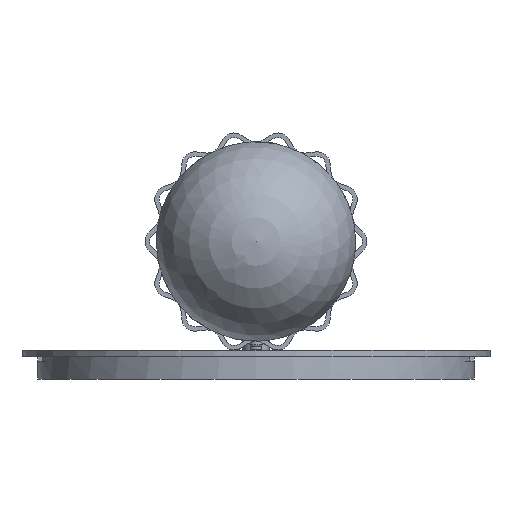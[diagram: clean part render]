
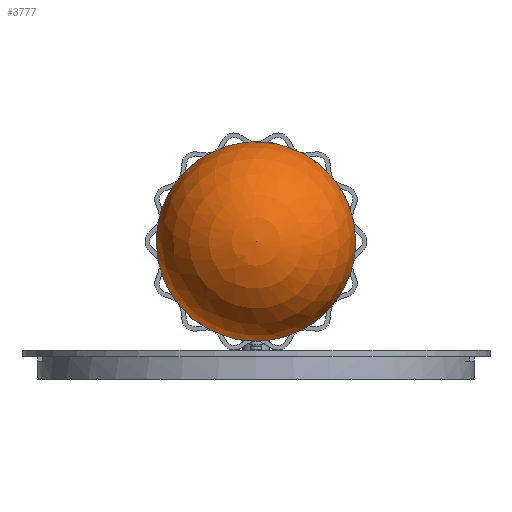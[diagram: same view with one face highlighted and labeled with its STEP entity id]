
A CAD part, front view. The second image highlights one B-rep face of the part: STEP entity #3777.
In plain terms, the highlighted spherical face has radius 22.5 mm.
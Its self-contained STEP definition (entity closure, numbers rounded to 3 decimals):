
#13=SPHERICAL_SURFACE('',#4186,22.5);
#343=FACE_OUTER_BOUND('',#549,.T.);
#549=EDGE_LOOP('',(#3187,#3188,#3189,#3190));
#1305=CIRCLE('',#4151,14.527);
#1306=CIRCLE('',#4152,14.527);
#1328=CIRCLE('',#4187,22.5);
#1664=VERTEX_POINT('',#6561);
#1665=VERTEX_POINT('',#6565);
#1682=VERTEX_POINT('',#6621);
#2163=EDGE_CURVE('',#1665,#1664,#1305,.T.);
#2164=EDGE_CURVE('',#1664,#1665,#1306,.T.);
#2189=EDGE_CURVE('',#1665,#1682,#1328,.T.);
#3187=ORIENTED_EDGE('',*,*,#2164,.T.);
#3188=ORIENTED_EDGE('',*,*,#2189,.T.);
#3189=ORIENTED_EDGE('',*,*,#2189,.F.);
#3190=ORIENTED_EDGE('',*,*,#2163,.T.);
#3777=ADVANCED_FACE('',(#343),#13,.T.);
#4151=AXIS2_PLACEMENT_3D('',#6566,#5149,#5150);
#4152=AXIS2_PLACEMENT_3D('',#6567,#5151,#5152);
#4186=AXIS2_PLACEMENT_3D('',#6620,#5222,#5223);
#4187=AXIS2_PLACEMENT_3D('',#6622,#5224,#5225);
#5149=DIRECTION('center_axis',(0.,-1.,0.));
#5150=DIRECTION('ref_axis',(0.634,0.,0.773));
#5151=DIRECTION('center_axis',(0.,-1.,0.));
#5152=DIRECTION('ref_axis',(0.634,0.,0.773));
#5222=DIRECTION('center_axis',(0.,1.,0.));
#5223=DIRECTION('ref_axis',(0.634,0.,0.773));
#5224=DIRECTION('center_axis',(-0.773,0.,
0.634));
#5225=DIRECTION('ref_axis',(-0.634,0.,-0.773));
#6561=CARTESIAN_POINT('',(11.23,-377.118,21.636));
#6565=CARTESIAN_POINT('',(-9.215,-377.118,19.621));
#6566=CARTESIAN_POINT('Origin',(0.,-377.118,30.851));
#6567=CARTESIAN_POINT('Origin',(0.,-377.118,30.851));
#6620=CARTESIAN_POINT('Origin',(0.,-394.3,30.851));
#6621=CARTESIAN_POINT('',(0.,-416.8,30.851));
#6622=CARTESIAN_POINT('Origin',(0.,-394.3,30.851));
